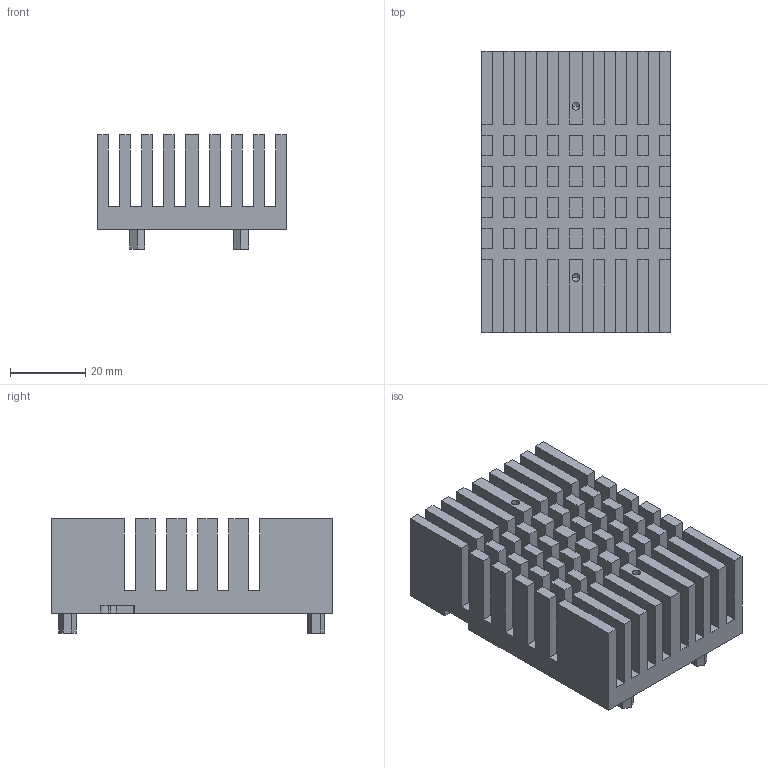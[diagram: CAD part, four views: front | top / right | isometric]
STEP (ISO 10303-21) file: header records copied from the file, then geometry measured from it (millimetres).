
FILE_DESCRIPTION (( 'STEP AP214' ), '1' );
FILE_NAME ('SRX2162S01D16GE064V11C0(SOM STANDALONE HS)-01.STEP', '2023-05-07T13:19:23', ( '' ), ( '' ), 'SwSTEP 2.0', 'SolidWorks 2019', '' );
FILE_SCHEMA (( 'AUTOMOTIVE_DESIGN' ));
Length unit declared in the file: millimetre
Products named in the file (3): SPACER M2.5 M-F; SRX2162S01D16GE064V11C0(SOM STANDALONE HS)-01; HS00026K(HEATSINK)
Assembly tree (5 placements, depth 2):
  SRX2162S01D16GE064V11C0(SOM STANDALONE HS)-01
    HS00026K(HEATSINK)
    SPACER M2.5 M-F  x4
Bounding box: 50 x 74.5 x 30.3 mm (x, y, z)
Volume: 50833 mm3; surface area: 36378.9 mm2
Topology: 5 solids, 5 shells, 366 faces, 949 edges, 616 vertices
Faces by surface type: plane 303, cylinder 43, cone 20
Entity records: 9811 total; most frequent: CARTESIAN_POINT 1715, ORIENTED_EDGE 1666, DIRECTION 1555, EDGE_CURVE 833, VECTOR 769, LINE 769, VERTEX_POINT 553, AXIS2_PLACEMENT_3D 393
